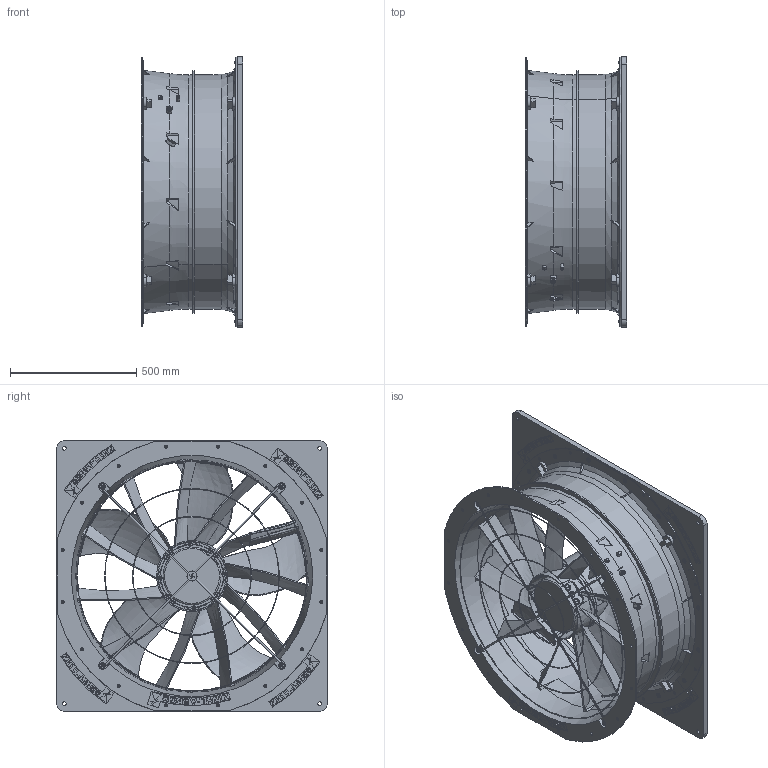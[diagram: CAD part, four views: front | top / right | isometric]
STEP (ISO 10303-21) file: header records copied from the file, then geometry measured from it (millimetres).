
FILE_DESCRIPTION((''),'2;1');
FILE_NAME('19091-QG13-02-00','2015-08-19T',('jakob1'),(''),'CREO PARAMETRIC BY PTC INC, 2014500','CREO PARAMETRIC BY PTC INC, 2014500','');
FILE_SCHEMA(('AUTOMOTIVE_DESIGN { 1 0 10303 214 1 1 1 1 }'));
Length unit declared in the file: millimetre
Products named in the file (1): 19091-QG13-02-00
Bounding box: 400 x 1070 x 1070 mm (x, y, z)
Volume: 33274780.6 mm3; surface area: 5948249.7 mm2
Topology: 7 solids, 7 shells, 3935 faces, 10519 edges, 6875 vertices
Faces by surface type: plane 2021, cylinder 818, cone 326, bspline 326, extrusion 308, torus 89, sphere 47
Entity records: 191258 total; most frequent: CARTESIAN_POINT 78075, ORIENTED_EDGE 21038, DIRECTION 17153, EDGE_CURVE 10519, VERTEX_POINT 6875, VECTOR 5937, LINE 5629, AXIS2_PLACEMENT_3D 5608
